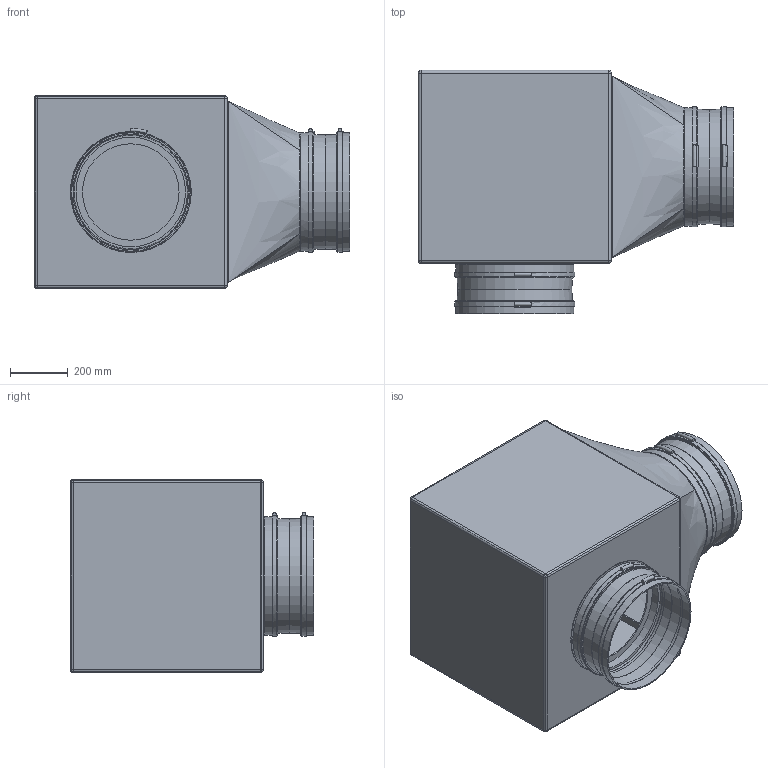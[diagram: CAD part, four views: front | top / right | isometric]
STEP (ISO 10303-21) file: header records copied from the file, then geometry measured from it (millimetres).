
FILE_DESCRIPTION(/* description */ (''),/* implementation_level */ '2;1');
FILE_NAME(/* name */ 'Z:\Output\GBD_400_4_4_T120_Radial-05773-001.stp',/* time_stamp */ '2017-05-09T00:03:12+02:00',/* author */ ('jayeshpanchal'),/* organization */ (''),/* preprocessor_version */ 'ST-DEVELOPER v16.5',/* originating_system */ 'Autodesk Inventor 2017',/* authorisation */ '');
FILE_SCHEMA (('AUTOMOTIVE_DESIGN { 1 0 10303 214 3 1 1 }'));
Length unit declared in the file: millimetre
Products named in the file (1): GB-2
Bounding box: 1095 x 845 x 670 mm (x, y, z)
Volume: 15539252.7 mm3; surface area: 7124210.3 mm2
Topology: 9 solids, 10 shells, 141 faces, 274 edges, 166 vertices
Faces by surface type: plane 55, cylinder 50, bspline 16, cone 8, sphere 8, torus 4
Full cylindrical faces by diameter (mm): 15 x2, 335 x1, 380 x1, 390 x1, 400 x2, 401 x8, 410 x2, 411 x8, 417 x4, 420 x1
Entity records: 4091 total; most frequent: CARTESIAN_POINT 1302, DIRECTION 596, ORIENTED_EDGE 474, AXIS2_PLACEMENT_3D 251, EDGE_CURVE 231, EDGE_LOOP 214, VERTEX_POINT 161, FACE_OUTER_BOUND 141
